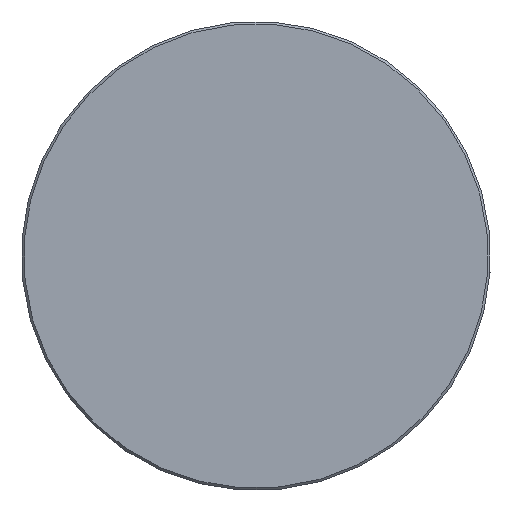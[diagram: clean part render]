
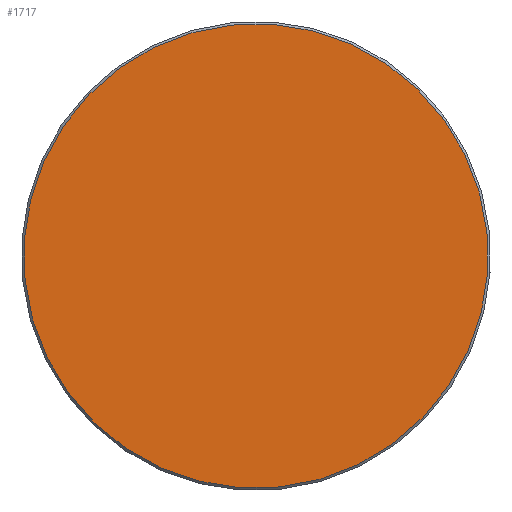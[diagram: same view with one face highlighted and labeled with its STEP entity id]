
A CAD part, left-side view. The second image highlights one B-rep face of the part: STEP entity #1717.
In plain terms, the highlighted planar face has unit normal (-1, 0, 0).
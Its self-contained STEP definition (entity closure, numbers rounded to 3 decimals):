
#1677=CARTESIAN_POINT('',(-111.319,47.582,-13.644));
#1678=VERTEX_POINT('',#1677);
#1679=CARTESIAN_POINT('',(-111.319,0.,0.));
#1680=DIRECTION('',(1.0,0.,0.));
#1681=DIRECTION('',(0.,-0.961,0.276));
#1682=AXIS2_PLACEMENT_3D('',#1679,#1680,#1681);
#1683=CIRCLE('',#1682,49.5);
#1684=EDGE_CURVE('',#1678,#1678,#1683,.T.);
#1709=CARTESIAN_POINT('',(-111.319,46.717,-13.396));
#1710=DIRECTION('',(-1.0,0.0,0.0));
#1711=DIRECTION('',(0.0,0.961,-0.276));
#1712=AXIS2_PLACEMENT_3D('',#1709,#1710,#1711);
#1713=PLANE('',#1712);
#1714=ORIENTED_EDGE('',*,*,#1684,.F.);
#1715=EDGE_LOOP('',(#1714));
#1716=FACE_OUTER_BOUND('',#1715,.T.);
#1717=ADVANCED_FACE('',(#1716),#1713,.T.);
